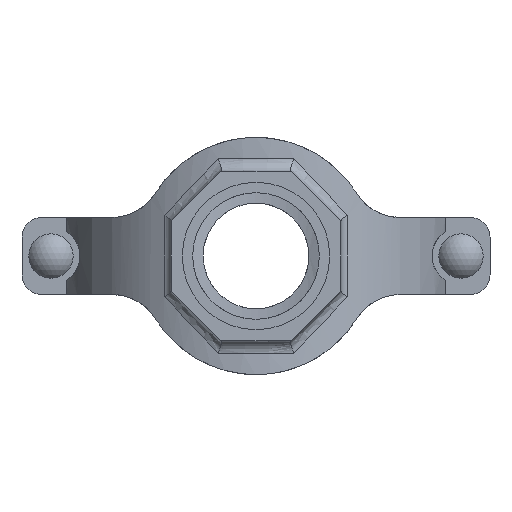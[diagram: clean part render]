
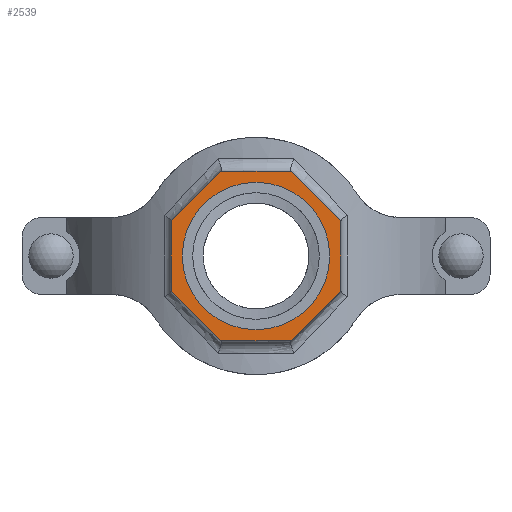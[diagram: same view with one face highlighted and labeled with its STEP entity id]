
A CAD part, front view. The second image highlights one B-rep face of the part: STEP entity #2539.
In plain terms, the highlighted planar face has unit normal (0, -1, 0) as drawn and (0, 1, 0) by its records, which use the part's own axes.
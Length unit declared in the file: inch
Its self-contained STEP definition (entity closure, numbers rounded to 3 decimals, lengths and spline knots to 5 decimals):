
#186=FACE_BOUND('',#459,.T.);
#307=FACE_OUTER_BOUND('',#458,.T.);
#458=EDGE_LOOP('',(#2138,#2139,#2140,#2141,#2142,#2143,#2144,#2145));
#459=EDGE_LOOP('',(#2146));
#594=LINE('',#4675,#780);
#597=LINE('',#4680,#783);
#599=LINE('',#4684,#785);
#601=LINE('',#4688,#787);
#641=LINE('',#5193,#827);
#643=LINE('',#5197,#829);
#645=LINE('',#5201,#831);
#647=LINE('',#5204,#833);
#780=VECTOR('',#3278,0.3937);
#783=VECTOR('',#3283,0.3937);
#785=VECTOR('',#3287,0.3937);
#787=VECTOR('',#3291,0.3937);
#827=VECTOR('',#3427,0.3937);
#829=VECTOR('',#3431,0.3937);
#831=VECTOR('',#3435,0.3937);
#833=VECTOR('',#3439,0.3937);
#919=CIRCLE('',#2802,1.4375);
#1097=VERTEX_POINT('',#4672);
#1098=VERTEX_POINT('',#4674);
#1099=VERTEX_POINT('',#4678);
#1100=VERTEX_POINT('',#4682);
#1101=VERTEX_POINT('',#4686);
#1136=VERTEX_POINT('',#5014);
#1160=VERTEX_POINT('',#5192);
#1161=VERTEX_POINT('',#5196);
#1162=VERTEX_POINT('',#5200);
#1408=EDGE_CURVE('',#1098,#1097,#594,.T.);
#1411=EDGE_CURVE('',#1097,#1099,#597,.T.);
#1413=EDGE_CURVE('',#1099,#1100,#599,.T.);
#1415=EDGE_CURVE('',#1100,#1101,#601,.T.);
#1461=EDGE_CURVE('',#1136,#1136,#919,.T.);
#1495=EDGE_CURVE('',#1160,#1098,#641,.T.);
#1497=EDGE_CURVE('',#1161,#1160,#643,.T.);
#1499=EDGE_CURVE('',#1162,#1161,#645,.T.);
#1501=EDGE_CURVE('',#1101,#1162,#647,.T.);
#2138=ORIENTED_EDGE('',*,*,#1501,.T.);
#2139=ORIENTED_EDGE('',*,*,#1499,.T.);
#2140=ORIENTED_EDGE('',*,*,#1497,.T.);
#2141=ORIENTED_EDGE('',*,*,#1495,.T.);
#2142=ORIENTED_EDGE('',*,*,#1408,.T.);
#2143=ORIENTED_EDGE('',*,*,#1411,.T.);
#2144=ORIENTED_EDGE('',*,*,#1413,.T.);
#2145=ORIENTED_EDGE('',*,*,#1415,.T.);
#2146=ORIENTED_EDGE('',*,*,#1461,.T.);
#2280=PLANE('',#2825);
#2539=ADVANCED_FACE('',(#307,#186),#2280,.T.);
#2802=AXIS2_PLACEMENT_3D('',#5015,#3369,#3370);
#2825=AXIS2_PLACEMENT_3D('',#5205,#3440,#3441);
#3278=DIRECTION('',(0.,0.,1.));
#3283=DIRECTION('',(0.707,0.,0.707));
#3287=DIRECTION('',(1.,0.,0.));
#3291=DIRECTION('',(0.707,0.,-0.707));
#3369=DIRECTION('center_axis',(0.,-1.,0.));
#3370=DIRECTION('ref_axis',(-1.,0.,0.));
#3427=DIRECTION('',(-0.707,0.,0.707));
#3431=DIRECTION('',(-1.,0.,0.));
#3435=DIRECTION('',(-0.707,0.,-0.707));
#3439=DIRECTION('',(0.,0.,-1.));
#3440=DIRECTION('center_axis',(0.,1.,0.));
#3441=DIRECTION('ref_axis',(0.,0.,1.));
#4672=CARTESIAN_POINT('',(-1.655,5.13,0.68552));
#4674=CARTESIAN_POINT('',(-1.655,5.13,-0.68552));
#4675=CARTESIAN_POINT('',(-1.655,5.13,0.68552));
#4678=CARTESIAN_POINT('',(-0.68552,5.13,1.655));
#4680=CARTESIAN_POINT('',(-0.68552,5.13,1.655));
#4682=CARTESIAN_POINT('',(0.68552,5.13,1.655));
#4684=CARTESIAN_POINT('',(0.68552,5.13,1.655));
#4686=CARTESIAN_POINT('',(1.655,5.13,0.68552));
#4688=CARTESIAN_POINT('',(1.655,5.13,0.68552));
#5014=CARTESIAN_POINT('',(1.4375,5.13,0.));
#5015=CARTESIAN_POINT('Origin',(0.,5.13,0.));
#5192=CARTESIAN_POINT('',(-0.68552,5.13,-1.655));
#5193=CARTESIAN_POINT('',(-1.655,5.13,-0.68552));
#5196=CARTESIAN_POINT('',(0.68552,5.13,-1.655));
#5197=CARTESIAN_POINT('',(-0.68552,5.13,-1.655));
#5200=CARTESIAN_POINT('',(1.655,5.13,-0.68552));
#5201=CARTESIAN_POINT('',(0.68552,5.13,-1.655));
#5204=CARTESIAN_POINT('',(1.655,5.13,-0.68552));
#5205=CARTESIAN_POINT('Origin',(0.,5.13,0.));
